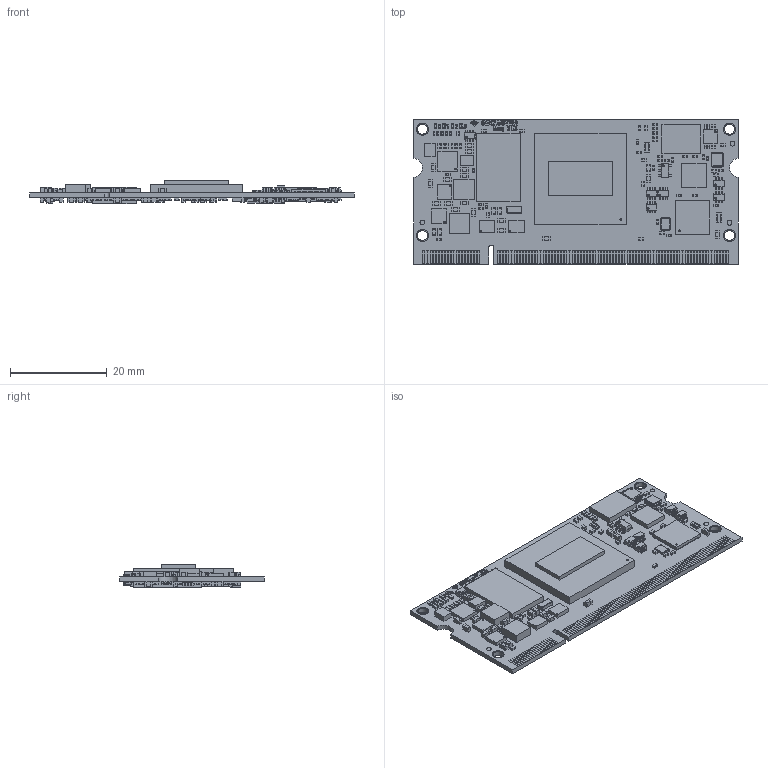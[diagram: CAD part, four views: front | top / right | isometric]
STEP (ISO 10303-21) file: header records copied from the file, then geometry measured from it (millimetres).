
FILE_DESCRIPTION(('Open CASCADE Model'),'2;1');
FILE_NAME('Open CASCADE Shape Model','2021-01-06T16:36:01',('Author'),( 'Open CASCADE'),'Open CASCADE STEP processor 6.8','Open CASCADE 6.8' ,'Unknown');
FILE_SCHEMA(('AUTOMOTIVE_DESIGN { 1 0 10303 214 1 1 1 1 }'));
Length unit declared in the file: millimetre
Products named in the file (399): --
Assembly tree (848 placements, depth 4):
  --
    --
      --
    --
      --  x200
        --
    --
      --
    --
      --
    --
      --
    --
      --
    --
      --
    --
      --
    --
      --
    --
      --
    --
      --
    --
      --
    --
      --
    --
      --
    --
      --
    --
      --
    --
      --
    --
      --
    --
      --
    --
      --
    --
      --
    --
      --
    --
      --
    --
      --
    --
      --
    --
      --
    --
      --
    --
      --
    --
      --
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Bounding box: 67.2 x 30 x 4.81 mm (x, y, z)
Volume: 3568.3 mm3; surface area: 9080.7 mm2
Topology: 979 solids, 979 shells, 9411 faces, 21565 edges, 14074 vertices
Faces by surface type: plane 8175, extrusion 724, cylinder 464, sphere 40, torus 8
Full cylindrical faces by diameter (mm): 0.2 x3, 0.3 x3, 0.4 x1, 1 x6, 2.1 x12, 2.5 x8
Entity records: 97603 total; most frequent: CARTESIAN_POINT 19548, ORIENTED_EDGE 13018, DIRECTION 11420, EDGE_CURVE 6509, VECTOR 5412, LINE 4716, VERTEX_POINT 4240, AXIS2_PLACEMENT_3D 3004
